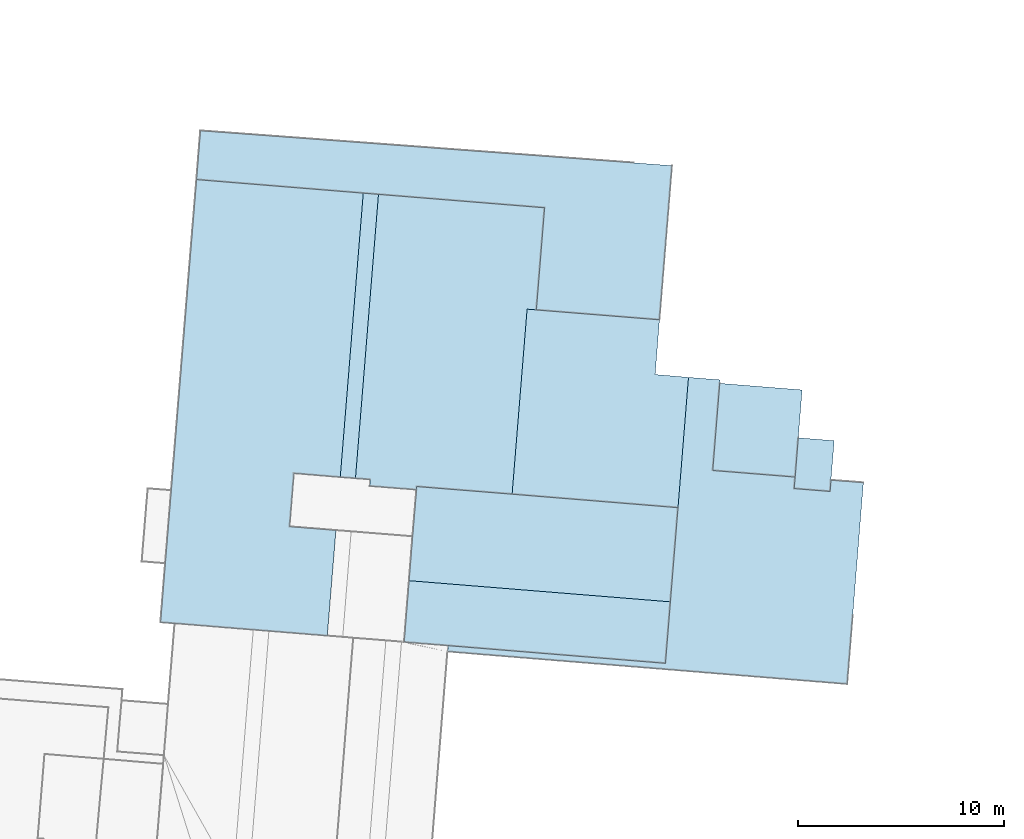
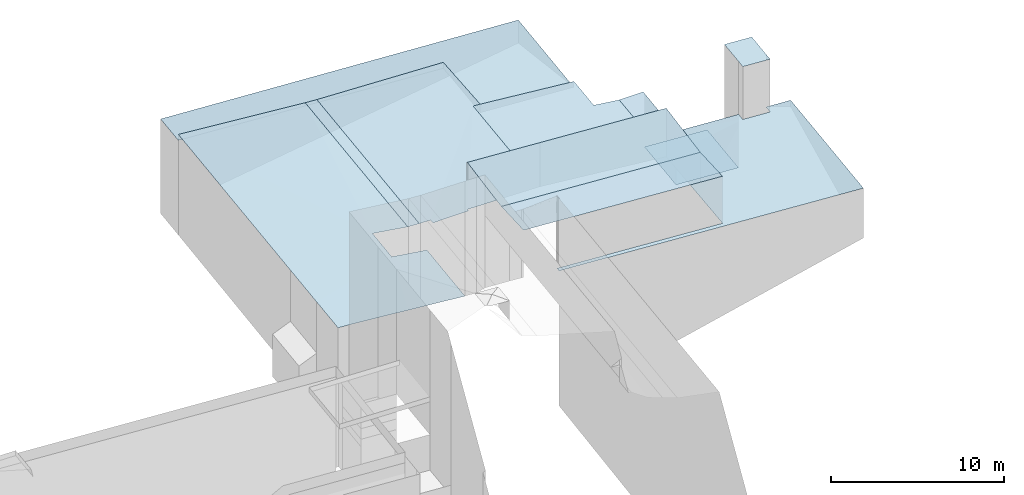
# Not in any storey, part 135 of 136: 20 roofs.
"""IFC2X3 building model written with IfcOpenShell, lengths in metres."""

from ifc_helpers import new_model, entity, si_unit, converted_unit, frame, origin, place, context, subcontext, project, spatial, face_set, surface_model, element, save


model = new_model("IFC2X3")

# Units and contexts
model_context = context("Model", 3, precision=1e-05, world=origin())
body_context = subcontext(model_context, "Body", "Model", "MODEL_VIEW")
ifc_project = project(units=[converted_unit("PLANEANGLEUNIT", "DEGREE", entity("IfcRatioMeasure", 0.0174532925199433), si_unit("PLANEANGLEUNIT", "RADIAN"), dimensions=[0, 0, 0, 0, 0, 0, 0]), si_unit("AREAUNIT", "SQUARE_METRE"), si_unit("LENGTHUNIT", "METRE")], contexts=[model_context])

# Site, building
site_placement = place(None, origin())
site = spatial("IfcSite", under=ifc_project, at=site_placement, Name="_site", CompositionType="ELEMENT")
building_placement = place(site_placement, origin())
building = spatial("IfcBuilding", under=site, at=building_placement, Name="_building", CompositionType="ELEMENT")

# Roofs
roof_1_placement = place(building_placement, origin())
element("IfcRoof", 1, at=roof_1_placement, inside=building, Name="Roof", ShapeType="NOTDEFINED", context=body_context, shape_type="SurfaceModel", body=[
    surface_model("IfcFaceBasedSurfaceModel", [(234.17, 121.97, 48.42), (234.57, 126.94, 48.22), (226.49, 127.592, 48.02), (225.37, 113.774, 48.02), (226.08, 113.72, 48.06), (226.06, 113.4, 48.06), (228.34, 113.22, 48.22), (228.35, 113.38, 48.22), (232.99, 113.008, 48.42), (233.72, 122.01, 48.42)], [face_set([[[0, 1, 2, 3, 4, 5, 6, 7, 8, 9]]])]),
])
roof_2_placement = place(building_placement, origin())
element("IfcRoof", 2, at=roof_2_placement, inside=building, Name="Roof", ShapeType="NOTDEFINED", context=body_context, shape_type="SurfaceModel", body=[
    surface_model("IfcFaceBasedSurfaceModel", [(243.09, 118.4, 44.44), (242.75, 114.16, 44.44), (246.76, 113.84, 44.44), (246.91, 115.75, 44.44), (247.1, 118.08, 44.44)], [face_set([[[0, 1, 2, 3, 4]]])]),
])
for number, where, name in (
    (3, (0.0, 0.0, 0.0), "Roof"),
    (4, (0.0, 0.0, 0.0), "Roof"),
):
    element("IfcRoof", number, at=place(building_placement, frame(where)), inside=building, Name=name, ShapeType="NOTDEFINED", context=body_context, shape_type="SurfaceModel", body=[
        surface_model("IfcFaceBasedSurfaceModel", [(241.57, 118.69, 48.12), (241.06, 112.351, 48.12), (240.69, 107.771, 48.18), (240.45, 104.78, 48.22), (229.88, 105.64, 48.22), (229.85, 105.351, 48.22), (249.29, 103.771, 48.22), (250.08, 113.57, 48.22), (248.5, 113.69, 48.22), (248.46, 113.14, 48.22), (246.71, 113.28, 48.22), (246.76, 113.84, 48.22), (242.75, 114.16, 48.22), (243.09, 118.4, 48.22), (243.1, 118.57, 48.22)], [face_set([[[0, 1, 2, 3, 4, 5, 6, 7, 8, 9, 10, 11, 12, 13, 14]]])]),
    ])
roof_3_placement = place(building_placement, origin())
element("IfcRoof", 5, at=roof_3_placement, inside=building, Name="Roof", ShapeType="NOTDEFINED", context=body_context, shape_type="SurfaceModel", body=[
    surface_model("IfcFaceBasedSurfaceModel", [(226.49, 127.592, 48.02), (225.75, 127.652, 48.02), (224.63, 113.833, 48.02), (225.37, 113.774, 48.02)], [face_set([[[0, 1, 2, 3]]])]),
])
roof_4_placement = place(building_placement, origin())
element("IfcRoof", 6, at=roof_4_placement, inside=building, Name="Roof", ShapeType="NOTDEFINED", context=body_context, shape_type="SurfaceModel", body=[
    surface_model("IfcFaceBasedSurfaceModel", [(234.17, 121.97, 48.42), (234.57, 126.94, 48.22), (226.49, 127.592, 48.02), (225.37, 113.774, 48.02), (226.08, 113.72, 48.06), (226.06, 113.4, 48.06), (228.34, 113.22, 48.22), (228.35, 113.38, 48.22), (232.99, 113.008, 48.42), (233.72, 122.01, 48.42)], [face_set([[[0, 1, 2, 3, 4, 5, 6, 7, 8, 9]]])]),
])
roof_5_placement = place(building_placement, origin())
element("IfcRoof", 7, at=roof_5_placement, inside=building, Name="Roof", ShapeType="NOTDEFINED", context=body_context, shape_type="SurfaceModel", body=[
    surface_model("IfcFaceBasedSurfaceModel", [(243.09, 118.4, 44.44), (242.75, 114.16, 44.44), (246.76, 113.84, 44.44), (246.91, 115.75, 44.44), (247.1, 118.08, 44.44)], [face_set([[[0, 1, 2, 3, 4]]])]),
])
roof_6_placement = place(building_placement, origin())
element("IfcRoof", 8, at=roof_6_placement, inside=building, Name="Roof", ShapeType="NOTDEFINED", context=body_context, shape_type="SurfaceModel", body=[
    surface_model("IfcFaceBasedSurfaceModel", [(226.49, 127.592, 48.02), (225.75, 127.652, 48.02), (224.63, 113.833, 48.02), (225.37, 113.774, 48.02)], [face_set([[[0, 1, 2, 3]]])]),
])
roof_7_placement = place(building_placement, origin())
element("IfcRoof", 9, at=roof_7_placement, inside=building, Name="Roof", ShapeType="NOTDEFINED", context=body_context, shape_type="SurfaceModel", body=[
    surface_model("IfcFaceBasedSurfaceModel", [(240.69, 107.771, 51.34), (241.06, 112.351, 51.55), (232.99, 113.008, 51.55), (228.35, 113.38, 51.55), (228.34, 113.22, 51.54), (228.15, 110.95, 51.44), (227.979, 108.8, 51.34)], [face_set([[[0, 1, 2, 3, 4, 5, 6]]])]),
])
roof_8_placement = place(building_placement, origin())
element("IfcRoof", 10, at=roof_8_placement, inside=building, Name="Roof", ShapeType="NOTDEFINED", context=body_context, shape_type="SurfaceModel", body=[
    surface_model("IfcFaceBasedSurfaceModel", [(217.64, 128.311, 47.8), (225.75, 127.652, 47.8), (226.49, 127.592, 47.8), (234.57, 126.94, 47.8), (234.17, 121.97, 47.8), (240.16, 121.49, 47.8), (240.77, 128.99, 47.8), (217.83, 130.69, 47.8)], [face_set([[[0, 1, 2, 3, 4, 5, 6, 7]]])]),
])
roof_9_placement = place(building_placement, origin())
element("IfcRoof", 11, at=roof_9_placement, inside=building, Name="Roof", ShapeType="NOTDEFINED", context=body_context, shape_type="SurfaceModel", body=[
    surface_model("IfcFaceBasedSurfaceModel", [(241.57, 118.69, 48.12), (239.95, 118.83, 48.22), (240.16, 121.49, 48.22), (234.17, 121.97, 48.42), (233.72, 122.01, 48.42), (232.99, 113.008, 48.42), (241.06, 112.351, 48.12)], [face_set([[[0, 1, 2, 3, 4, 5, 6]]])]),
])
roof_10_placement = place(building_placement, origin())
element("IfcRoof", 12, at=roof_10_placement, inside=building, Name="Roof", ShapeType="NOTDEFINED", context=body_context, shape_type="SurfaceModel", body=[
    surface_model("IfcFaceBasedSurfaceModel", [(240.69, 107.771, 51.34), (241.06, 112.351, 51.55), (232.99, 113.008, 51.55), (228.35, 113.38, 51.55), (228.34, 113.22, 51.54), (228.15, 110.95, 51.44), (227.979, 108.8, 51.34)], [face_set([[[0, 1, 2, 3, 4, 5, 6]]])]),
])
for number, where, name in (
    (13, (0.0, 0.0, 0.0), "Roof"),
    (14, (0.0, 0.0, 0.0), "Roof"),
):
    element("IfcRoof", number, at=place(building_placement, frame(where)), inside=building, Name=name, ShapeType="NOTDEFINED", context=body_context, shape_type="SurfaceModel", body=[
        surface_model("IfcFaceBasedSurfaceModel", [(246.91, 115.75, 51.95), (246.76, 113.84, 51.95), (246.71, 113.28, 51.95), (248.46, 113.14, 51.95), (248.5, 113.69, 51.95), (248.66, 115.61, 51.95)], [face_set([[[0, 1, 2, 3, 4, 5]]])]),
    ])
roof_11_placement = place(building_placement, origin())
element("IfcRoof", 15, at=roof_11_placement, inside=building, Name="Roof", ShapeType="NOTDEFINED", context=body_context, shape_type="SurfaceModel", body=[
    surface_model("IfcFaceBasedSurfaceModel", [(225.75, 127.652, 48.02), (217.64, 128.311, 48.22), (216.41, 113.19, 48.22), (216.12, 109.64, 48.22), (215.89, 106.771, 48.22), (216.58, 106.72, 48.22), (220.4, 106.41, 48.117), (221.16, 106.35, 48.097), (224.0, 106.118, 48.02), (224.42, 111.25, 48.02), (222.17, 111.43, 48.22), (222.38, 114.021, 48.22), (224.63, 113.833, 48.02)], [face_set([[[0, 1, 2, 3, 4, 5, 6, 7, 8, 9, 10, 11, 12]]])]),
])
roof_12_placement = place(building_placement, origin())
element("IfcRoof", 16, at=roof_12_placement, inside=building, Name="Roof", ShapeType="NOTDEFINED", context=body_context, shape_type="SurfaceModel", body=[
    surface_model("IfcFaceBasedSurfaceModel", [(241.57, 118.69, 48.12), (239.95, 118.83, 48.22), (240.16, 121.49, 48.22), (234.17, 121.97, 48.42), (233.72, 122.01, 48.42), (232.99, 113.008, 48.42), (241.06, 112.351, 48.12)], [face_set([[[0, 1, 2, 3, 4, 5, 6]]])]),
])
roof_13_placement = place(building_placement, origin())
element("IfcRoof", 17, at=roof_13_placement, inside=building, Name="Roof", ShapeType="NOTDEFINED", context=body_context, shape_type="SurfaceModel", body=[
    surface_model("IfcFaceBasedSurfaceModel", [(227.979, 108.8, 51.34), (227.74, 105.811, 51.55), (229.88, 105.64, 51.55), (240.45, 104.78, 51.55), (240.69, 107.771, 51.34)], [face_set([[[0, 1, 2, 3, 4]]])]),
])
roof_14_placement = place(building_placement, origin())
element("IfcRoof", 18, at=roof_14_placement, inside=building, Name="Roof", ShapeType="NOTDEFINED", context=body_context, shape_type="SurfaceModel", body=[
    surface_model("IfcFaceBasedSurfaceModel", [(217.64, 128.311, 47.8), (225.75, 127.652, 47.8), (226.49, 127.592, 47.8), (234.57, 126.94, 47.8), (234.17, 121.97, 47.8), (240.16, 121.49, 47.8), (240.77, 128.99, 47.8), (217.83, 130.69, 47.8)], [face_set([[[0, 1, 2, 3, 4, 5, 6, 7]]])]),
])
roof_15_placement = place(building_placement, origin())
element("IfcRoof", 19, at=roof_15_placement, inside=building, Name="Roof", ShapeType="NOTDEFINED", context=body_context, shape_type="SurfaceModel", body=[
    surface_model("IfcFaceBasedSurfaceModel", [(227.979, 108.8, 51.34), (227.74, 105.811, 51.55), (229.88, 105.64, 51.55), (240.45, 104.78, 51.55), (240.69, 107.771, 51.34)], [face_set([[[0, 1, 2, 3, 4]]])]),
])
roof_16_placement = place(building_placement, origin())
element("IfcRoof", 20, at=roof_16_placement, inside=building, Name="Roof", ShapeType="NOTDEFINED", context=body_context, shape_type="SurfaceModel", body=[
    surface_model("IfcFaceBasedSurfaceModel", [(225.75, 127.652, 48.02), (217.64, 128.311, 48.22), (216.41, 113.19, 48.22), (216.12, 109.64, 48.22), (215.89, 106.771, 48.22), (216.58, 106.72, 48.22), (220.4, 106.41, 48.117), (221.16, 106.35, 48.097), (224.0, 106.118, 48.02), (224.42, 111.25, 48.02), (222.17, 111.43, 48.22), (222.38, 114.021, 48.22), (224.63, 113.833, 48.02)], [face_set([[[0, 1, 2, 3, 4, 5, 6, 7, 8, 9, 10, 11, 12]]])]),
])

save(model, "model.ifc")
